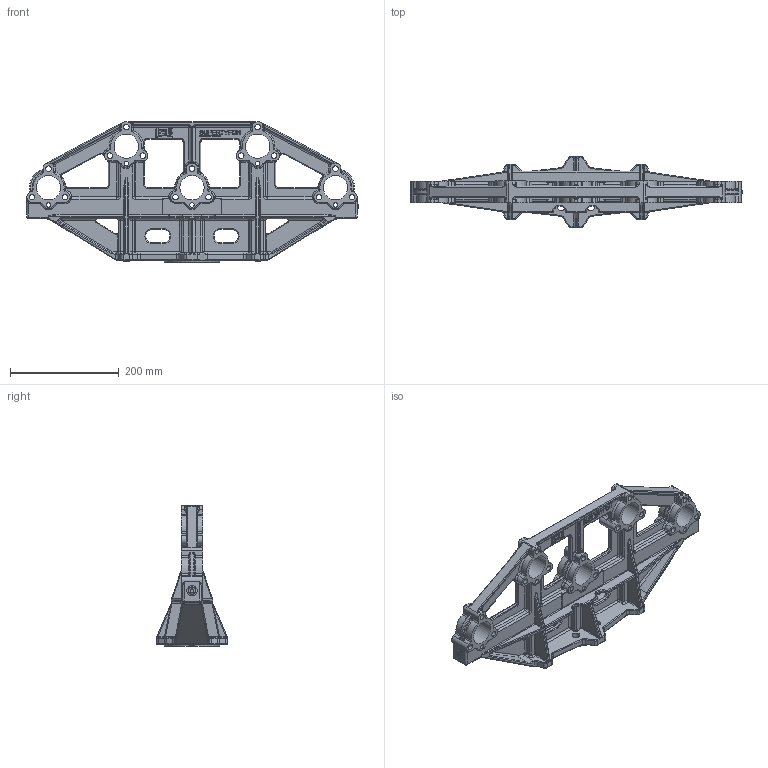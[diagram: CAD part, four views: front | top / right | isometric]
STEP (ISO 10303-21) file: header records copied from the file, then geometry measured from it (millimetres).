
FILE_DESCRIPTION(/* description */ (''),/* implementation_level */ '2;1');
FILE_NAME(/* name */ 'E:/hidden/Engineering Projects/Leslie Controls SuperTyfon/CAD/Components/26091 Five Horn Base.step',/* time_stamp */ '2022-08-18T19:37:05+10:00',/* author */ (''),/* organization */ (''),/* preprocessor_version */ 'ST-DEVELOPER v19',/* originating_system */ 'Autodesk Translation Framework v11.7.0.108',/* authorisation */ '');
FILE_SCHEMA (('AUTOMOTIVE_DESIGN { 1 0 10303 214 3 1 1 }'));
Products named in the file (2): 26091 Five Horn Base; Plug Weld
Assembly tree (4 placements, depth 2):
  26091 Five Horn Base
    Plug Weld  x4
Bounding box: 609.77 x 130.18 x 257.18 mm (x, y, z)
Volume: 2281565.2 mm3; surface area: 490825.9 mm2
Topology: 5 solids, 5 shells, 2530 faces, 6347 edges, 3723 vertices
Faces by surface type: cylinder 773, plane 619, bspline 594, torus 332, cone 114, sphere 98
Full cylindrical faces by diameter (mm): 8.136 x5, 10.319 x15, 14.287 x17, 18.256 x1, 44.648 x5
Entity records: 95259 total; most frequent: CARTESIAN_POINT 37950, ORIENTED_EDGE 12398, DIRECTION 11483, EDGE_CURVE 6199, AXIS2_PLACEMENT_3D 4517, VERTEX_POINT 3708, EDGE_LOOP 2621, FACE_OUTER_BOUND 2512
